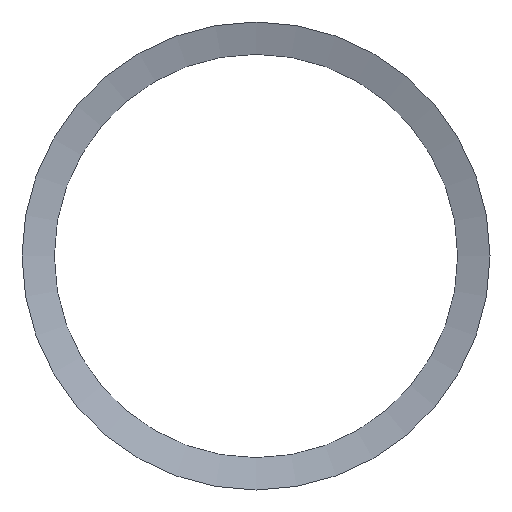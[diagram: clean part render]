
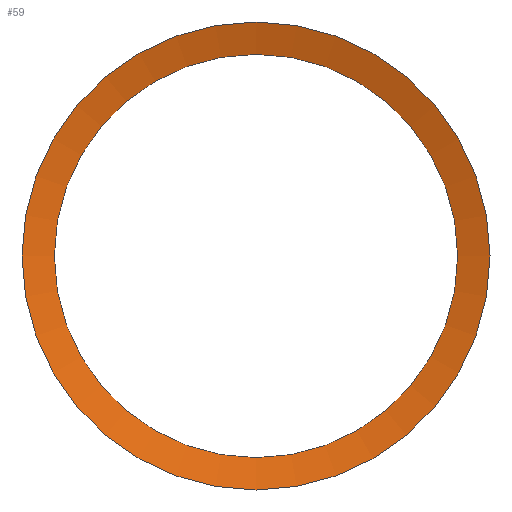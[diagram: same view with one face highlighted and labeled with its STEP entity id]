
A CAD part, front view. The second image highlights one B-rep face of the part: STEP entity #59.
In plain terms, the highlighted conical face has half-angle 75 degrees and reference radius 29.684 mm.
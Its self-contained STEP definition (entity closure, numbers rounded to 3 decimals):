
#13=CONICAL_SURFACE($,#69,29.684,75.);
#16=FACE_BOUND($,#27,.T.);
#20=FACE_OUTER_BOUND($,#26,.T.);
#26=EDGE_LOOP($,(#46));
#27=EDGE_LOOP($,(#47));
#31=CIRCLE($,#66,28.4);
#33=CIRCLE($,#70,32.95);
#35=VERTEX_POINT($,#94);
#37=VERTEX_POINT($,#100);
#39=EDGE_CURVE($,#35,#35,#31,.T.);
#41=EDGE_CURVE($,#37,#37,#33,.T.);
#46=ORIENTED_EDGE($,*,*,#39,.T.);
#47=ORIENTED_EDGE($,*,*,#41,.F.);
#59=ADVANCED_FACE($,(#20,#16),#13,.F.);
#66=AXIS2_PLACEMENT_3D($,#95,#78,#79);
#69=AXIS2_PLACEMENT_3D($,#99,#84,#85);
#70=AXIS2_PLACEMENT_3D($,#101,#86,#87);
#78=DIRECTION('center_axis',(0.,1.,0.));
#79=DIRECTION('ref_axis',(1.,0.,0.));
#84=DIRECTION('center_axis',(0.,-1.,0.));
#85=DIRECTION('ref_axis',(-1.,0.,0.));
#86=DIRECTION('center_axis',(0.,1.,0.));
#87=DIRECTION('ref_axis',(-1.,0.,0.));
#94=CARTESIAN_POINT('',(-28.4,-0.531,0.));
#95=CARTESIAN_POINT('Origin',(0.,-0.531,0.));
#99=CARTESIAN_POINT('Origin',(0.,-0.875,0.));
#100=CARTESIAN_POINT('',(-32.95,-1.75,0.));
#101=CARTESIAN_POINT('Origin',(0.,-1.75,0.));
